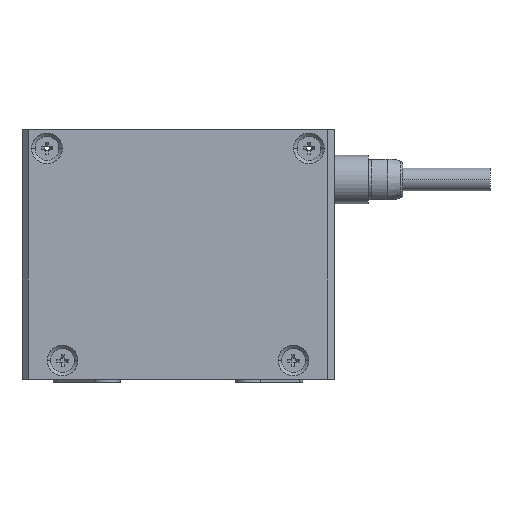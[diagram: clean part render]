
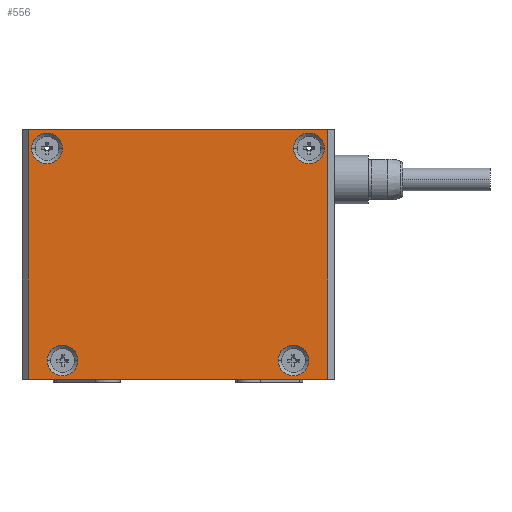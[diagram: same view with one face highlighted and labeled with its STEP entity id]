
A CAD part, front view. The second image highlights one B-rep face of the part: STEP entity #556.
In plain terms, the highlighted planar face has unit normal (0, -1, 0).
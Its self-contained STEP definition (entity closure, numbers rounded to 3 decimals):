
#2 = EDGE_CURVE ( 'NONE', #2840, #7841, #7200, .T. ) ;
#117 = EDGE_CURVE ( 'NONE', #5873, #2238, #1729, .T. ) ;
#120 = CARTESIAN_POINT ( 'NONE',  ( -62.488, -28.326, 38.75 ) ) ;
#236 = CARTESIAN_POINT ( 'NONE',  ( -67.388, -28.326, 38.75 ) ) ;
#530 = VERTEX_POINT ( 'NONE', #1233 ) ;
#556 = ADVANCED_FACE ( 'NONE', ( #6706, #4481, #4341, #5849, #5111 ), #7351, .F. ) ;
#618 = ORIENTED_EDGE ( 'NONE', *, *, #2660, .F. ) ;
#656 = CARTESIAN_POINT ( 'NONE',  ( -27.888, -28.326, 72.75 ) ) ;
#849 = CIRCLE ( 'NONE', #5821, 2.45 ) ;
#929 = CIRCLE ( 'NONE', #4203, 2.45 ) ;
#959 = VERTEX_POINT ( 'NONE', #2971 ) ;
#998 = CARTESIAN_POINT ( 'NONE',  ( -71.438, -28.326, 35.75 ) ) ;
#1000 = DIRECTION ( 'NONE',  ( 1., 0., 0. ) ) ;
#1011 = VERTEX_POINT ( 'NONE', #4240 ) ;
#1214 = DIRECTION ( 'NONE',  ( 0., 0., 1. ) ) ;
#1233 = CARTESIAN_POINT ( 'NONE',  ( -70.438, -28.326, 35.75 ) ) ;
#1493 = AXIS2_PLACEMENT_3D ( 'NONE', #4000, #8226, #3810 ) ;
#1554 = CARTESIAN_POINT ( 'NONE',  ( -22.438, -28.326, 75.75 ) ) ;
#1677 = CARTESIAN_POINT ( 'NONE',  ( -25.438, -28.326, 72.75 ) ) ;
#1697 = LINE ( 'NONE', #2486, #5129 ) ;
#1729 = CIRCLE ( 'NONE', #7002, 2.45 ) ;
#1765 = ORIENTED_EDGE ( 'NONE', *, *, #6768, .F. ) ;
#1819 = CARTESIAN_POINT ( 'NONE',  ( -71.438, -28.326, 75.75 ) ) ;
#1885 = EDGE_LOOP ( 'NONE', ( #7331, #5828 ) ) ;
#1891 = VERTEX_POINT ( 'NONE', #3901 ) ;
#2010 = EDGE_LOOP ( 'NONE', ( #6535, #618 ) ) ;
#2238 = VERTEX_POINT ( 'NONE', #236 ) ;
#2330 = VERTEX_POINT ( 'NONE', #1554 ) ;
#2486 = CARTESIAN_POINT ( 'NONE',  ( -70.438, -28.326, 35.75 ) ) ;
#2522 = VECTOR ( 'NONE', #3970, 1000. ) ;
#2550 = CARTESIAN_POINT ( 'NONE',  ( -25.488, -28.326, 38.75 ) ) ;
#2574 = EDGE_CURVE ( 'NONE', #530, #1891, #4693, .T. ) ;
#2643 = VERTEX_POINT ( 'NONE', #7308 ) ;
#2660 = EDGE_CURVE ( 'NONE', #959, #4775, #7508, .T. ) ;
#2791 = CARTESIAN_POINT ( 'NONE',  ( -67.438, -28.326, 72.75 ) ) ;
#2840 = VERTEX_POINT ( 'NONE', #8422 ) ;
#2936 = CARTESIAN_POINT ( 'NONE',  ( -71.438, -28.326, 35.75 ) ) ;
#2971 = CARTESIAN_POINT ( 'NONE',  ( -30.388, -28.326, 38.75 ) ) ;
#3370 = CARTESIAN_POINT ( 'NONE',  ( -25.438, -28.326, 72.75 ) ) ;
#3406 = EDGE_LOOP ( 'NONE', ( #5158, #1765 ) ) ;
#3427 = DIRECTION ( 'NONE',  ( -1., 0., 0. ) ) ;
#3810 = DIRECTION ( 'NONE',  ( 1., 0., 0. ) ) ;
#3879 = CARTESIAN_POINT ( 'NONE',  ( -67.438, -28.326, 72.75 ) ) ;
#3901 = CARTESIAN_POINT ( 'NONE',  ( -22.438, -28.326, 35.75 ) ) ;
#3951 = AXIS2_PLACEMENT_3D ( 'NONE', #1677, #4646, #1000 ) ;
#3970 = DIRECTION ( 'NONE',  ( 1., 0., 0. ) ) ;
#3990 = CARTESIAN_POINT ( 'NONE',  ( -22.438, -28.326, 35.75 ) ) ;
#4000 = CARTESIAN_POINT ( 'NONE',  ( -27.938, -28.326, 38.75 ) ) ;
#4189 = DIRECTION ( 'NONE',  ( 1., 0., 0. ) ) ;
#4203 = AXIS2_PLACEMENT_3D ( 'NONE', #5422, #4698, #8399 ) ;
#4240 = CARTESIAN_POINT ( 'NONE',  ( -69.888, -28.326, 72.75 ) ) ;
#4291 = ORIENTED_EDGE ( 'NONE', *, *, #9569, .T. ) ;
#4341 = FACE_BOUND ( 'NONE', #2010, .T. ) ;
#4468 = DIRECTION ( 'NONE',  ( 0., -1., 0. ) ) ;
#4481 = FACE_BOUND ( 'NONE', #3406, .T. ) ;
#4494 = CIRCLE ( 'NONE', #6991, 2.45 ) ;
#4646 = DIRECTION ( 'NONE',  ( 0., -1., 0. ) ) ;
#4693 = LINE ( 'NONE', #998, #2522 ) ;
#4698 = DIRECTION ( 'NONE',  ( 0., -1., 0. ) ) ;
#4775 = VERTEX_POINT ( 'NONE', #2550 ) ;
#4784 = EDGE_CURVE ( 'NONE', #2330, #2643, #4829, .T. ) ;
#4829 = LINE ( 'NONE', #1819, #8693 ) ;
#4856 = LINE ( 'NONE', #3990, #9471 ) ;
#5020 = DIRECTION ( 'NONE',  ( 0., -1., 0. ) ) ;
#5075 = DIRECTION ( 'NONE',  ( 0., -1., 0. ) ) ;
#5111 = FACE_BOUND ( 'NONE', #1885, .T. ) ;
#5129 = VECTOR ( 'NONE', #8412, 1000. ) ;
#5158 = ORIENTED_EDGE ( 'NONE', *, *, #2, .F. ) ;
#5166 = CARTESIAN_POINT ( 'NONE',  ( -27.938, -28.326, 38.75 ) ) ;
#5209 = DIRECTION ( 'NONE',  ( -1., 0., 0. ) ) ;
#5422 = CARTESIAN_POINT ( 'NONE',  ( -64.938, -28.326, 38.75 ) ) ;
#5554 = ORIENTED_EDGE ( 'NONE', *, *, #2574, .T. ) ;
#5669 = AXIS2_PLACEMENT_3D ( 'NONE', #2936, #7443, #5209 ) ;
#5765 = CARTESIAN_POINT ( 'NONE',  ( -64.938, -28.326, 38.75 ) ) ;
#5821 = AXIS2_PLACEMENT_3D ( 'NONE', #2791, #5020, #7495 ) ;
#5828 = ORIENTED_EDGE ( 'NONE', *, *, #8901, .F. ) ;
#5849 = FACE_OUTER_BOUND ( 'NONE', #8067, .T. ) ;
#5873 = VERTEX_POINT ( 'NONE', #120 ) ;
#6338 = DIRECTION ( 'NONE',  ( 0., -1., 0. ) ) ;
#6473 = ORIENTED_EDGE ( 'NONE', *, *, #4784, .T. ) ;
#6535 = ORIENTED_EDGE ( 'NONE', *, *, #7898, .F. ) ;
#6548 = EDGE_CURVE ( 'NONE', #1011, #9534, #849, .T. ) ;
#6706 = FACE_BOUND ( 'NONE', #8716, .T. ) ;
#6768 = EDGE_CURVE ( 'NONE', #7841, #2840, #7674, .T. ) ;
#6906 = CIRCLE ( 'NONE', #1493, 2.45 ) ;
#6991 = AXIS2_PLACEMENT_3D ( 'NONE', #3879, #4468, #9078 ) ;
#7002 = AXIS2_PLACEMENT_3D ( 'NONE', #5765, #6338, #7953 ) ;
#7200 = CIRCLE ( 'NONE', #3951, 2.45 ) ;
#7308 = CARTESIAN_POINT ( 'NONE',  ( -70.438, -28.326, 75.75 ) ) ;
#7331 = ORIENTED_EDGE ( 'NONE', *, *, #117, .F. ) ;
#7351 = PLANE ( 'NONE',  #5669 ) ;
#7443 = DIRECTION ( 'NONE',  ( 0., 1., 0. ) ) ;
#7467 = ORIENTED_EDGE ( 'NONE', *, *, #6548, .F. ) ;
#7495 = DIRECTION ( 'NONE',  ( 1., 0., 0. ) ) ;
#7508 = CIRCLE ( 'NONE', #9064, 2.45 ) ;
#7674 = CIRCLE ( 'NONE', #8922, 2.45 ) ;
#7841 = VERTEX_POINT ( 'NONE', #656 ) ;
#7898 = EDGE_CURVE ( 'NONE', #4775, #959, #6906, .T. ) ;
#7953 = DIRECTION ( 'NONE',  ( 1., 0., 0. ) ) ;
#8067 = EDGE_LOOP ( 'NONE', ( #5554, #8595, #6473, #4291 ) ) ;
#8096 = DIRECTION ( 'NONE',  ( 1., 0., 0. ) ) ;
#8226 = DIRECTION ( 'NONE',  ( 0., -1., 0. ) ) ;
#8399 = DIRECTION ( 'NONE',  ( 1., 0., 0. ) ) ;
#8412 = DIRECTION ( 'NONE',  ( 0., 0., -1. ) ) ;
#8422 = CARTESIAN_POINT ( 'NONE',  ( -22.988, -28.326, 72.75 ) ) ;
#8494 = EDGE_CURVE ( 'NONE', #1891, #2330, #4856, .T. ) ;
#8510 = DIRECTION ( 'NONE',  ( 0., -1., 0. ) ) ;
#8595 = ORIENTED_EDGE ( 'NONE', *, *, #8494, .T. ) ;
#8692 = EDGE_CURVE ( 'NONE', #9534, #1011, #4494, .T. ) ;
#8693 = VECTOR ( 'NONE', #3427, 1000. ) ;
#8716 = EDGE_LOOP ( 'NONE', ( #9126, #7467 ) ) ;
#8901 = EDGE_CURVE ( 'NONE', #2238, #5873, #929, .T. ) ;
#8922 = AXIS2_PLACEMENT_3D ( 'NONE', #3370, #8510, #4189 ) ;
#9044 = CARTESIAN_POINT ( 'NONE',  ( -64.988, -28.326, 72.75 ) ) ;
#9064 = AXIS2_PLACEMENT_3D ( 'NONE', #5166, #5075, #8096 ) ;
#9078 = DIRECTION ( 'NONE',  ( 1., 0., 0. ) ) ;
#9126 = ORIENTED_EDGE ( 'NONE', *, *, #8692, .F. ) ;
#9471 = VECTOR ( 'NONE', #1214, 1000. ) ;
#9534 = VERTEX_POINT ( 'NONE', #9044 ) ;
#9569 = EDGE_CURVE ( 'NONE', #2643, #530, #1697, .T. ) ;
